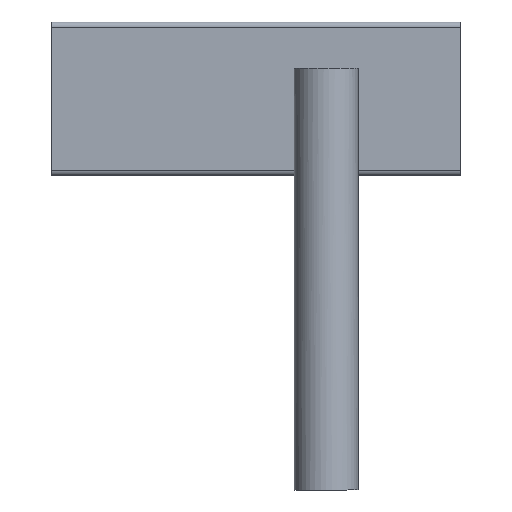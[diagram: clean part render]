
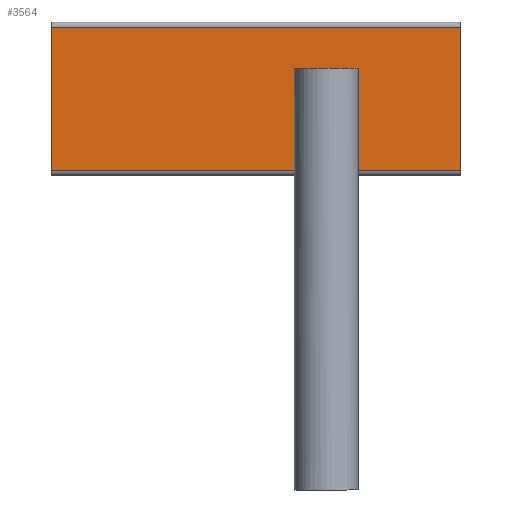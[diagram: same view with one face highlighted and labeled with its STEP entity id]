
A CAD part, front view. The second image highlights one B-rep face of the part: STEP entity #3564.
In plain terms, the highlighted planar face has unit normal (0, -1, 0).
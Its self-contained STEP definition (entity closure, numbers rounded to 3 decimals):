
#53=FACE_BOUND('',#437,.T.);
#230=FACE_OUTER_BOUND('',#436,.T.);
#436=EDGE_LOOP('',(#2558,#2559,#2560,#2561));
#437=EDGE_LOOP('',(#2562,#2563,#2564,#2565));
#609=CIRCLE('',#3814,5.125);
#611=CIRCLE('',#3818,5.125);
#832=LINE('',#5423,#1142);
#836=LINE('',#5434,#1146);
#862=LINE('',#5505,#1172);
#868=LINE('',#5526,#1178);
#874=LINE('',#5543,#1184);
#876=LINE('',#5546,#1186);
#1142=VECTOR('',#4395,10.);
#1146=VECTOR('',#4407,10.);
#1172=VECTOR('',#4473,10.);
#1178=VECTOR('',#4499,10.);
#1184=VECTOR('',#4523,10.);
#1186=VECTOR('',#4527,10.);
#1436=VERTEX_POINT('',#5413);
#1437=VERTEX_POINT('',#5414);
#1440=VERTEX_POINT('',#5422);
#1442=VERTEX_POINT('',#5428);
#1467=VERTEX_POINT('',#5502);
#1468=VERTEX_POINT('',#5504);
#1472=VERTEX_POINT('',#5523);
#1473=VERTEX_POINT('',#5525);
#1804=EDGE_CURVE('',#1436,#1437,#609,.T.);
#1808=EDGE_CURVE('',#1440,#1436,#832,.T.);
#1811=EDGE_CURVE('',#1442,#1440,#611,.T.);
#1814=EDGE_CURVE('',#1437,#1442,#836,.T.);
#1849=EDGE_CURVE('',#1468,#1467,#862,.T.);
#1859=EDGE_CURVE('',#1473,#1472,#868,.T.);
#1868=EDGE_CURVE('',#1468,#1472,#874,.T.);
#1870=EDGE_CURVE('',#1473,#1467,#876,.T.);
#2558=ORIENTED_EDGE('',*,*,#1849,.T.);
#2559=ORIENTED_EDGE('',*,*,#1870,.F.);
#2560=ORIENTED_EDGE('',*,*,#1859,.T.);
#2561=ORIENTED_EDGE('',*,*,#1868,.F.);
#2562=ORIENTED_EDGE('',*,*,#1804,.T.);
#2563=ORIENTED_EDGE('',*,*,#1814,.T.);
#2564=ORIENTED_EDGE('',*,*,#1811,.T.);
#2565=ORIENTED_EDGE('',*,*,#1808,.T.);
#3205=PLANE('',#3860);
#3564=ADVANCED_FACE('',(#230,#53),#3205,.F.);
#3814=AXIS2_PLACEMENT_3D('',#5415,#4387,#4388);
#3818=AXIS2_PLACEMENT_3D('',#5429,#4400,#4401);
#3860=AXIS2_PLACEMENT_3D('',#5545,#4525,#4526);
#4387=DIRECTION('center_axis',(0.,1.,0.));
#4388=DIRECTION('ref_axis',(-0.805,0.,-0.593));
#4395=DIRECTION('',(0.,0.,1.));
#4400=DIRECTION('center_axis',(0.,1.,0.));
#4401=DIRECTION('ref_axis',(0.805,0.,0.593));
#4407=DIRECTION('',(0.,0.,-1.));
#4473=DIRECTION('',(-1.,0.,0.));
#4499=DIRECTION('',(1.,0.,0.));
#4523=DIRECTION('',(0.,0.,-1.));
#4525=DIRECTION('center_axis',(0.,1.,0.));
#4526=DIRECTION('ref_axis',(0.,0.,-1.));
#4527=DIRECTION('',(0.,0.,1.));
#5413=CARTESIAN_POINT('',(23.375,-38.5,3.041));
#5414=CARTESIAN_POINT('',(31.625,-38.5,3.041));
#5415=CARTESIAN_POINT('Origin',(27.5,-38.5,0.));
#5422=CARTESIAN_POINT('',(23.375,-38.5,-3.041));
#5423=CARTESIAN_POINT('',(23.375,-38.5,-1.521));
#5428=CARTESIAN_POINT('',(31.625,-38.5,-3.041));
#5429=CARTESIAN_POINT('Origin',(27.5,-38.5,0.));
#5434=CARTESIAN_POINT('',(31.625,-38.5,1.521));
#5502=CARTESIAN_POINT('',(-80.,-38.5,28.));
#5504=CARTESIAN_POINT('',(80.,-38.5,28.));
#5505=CARTESIAN_POINT('',(40.,-38.5,28.));
#5523=CARTESIAN_POINT('',(80.,-38.5,-28.));
#5525=CARTESIAN_POINT('',(-80.,-38.5,-28.));
#5526=CARTESIAN_POINT('',(-40.,-38.5,-28.));
#5543=CARTESIAN_POINT('',(80.,-38.5,30.));
#5545=CARTESIAN_POINT('Origin',(0.,-38.5,
0.));
#5546=CARTESIAN_POINT('',(-80.,-38.5,-30.));
